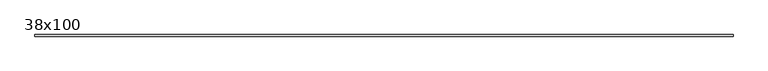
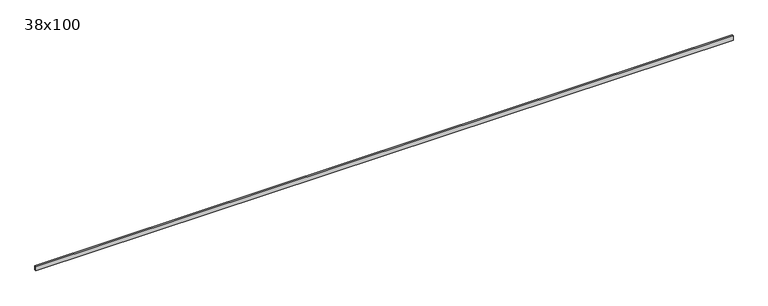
"""IFC4 building model written with IfcOpenShell, lengths in millimetres: beam geometry, Poutre - Bois de construction de dimensions courantes : 38x100."""

from ifc_helpers import new_model, si_unit, frame, origin, place, context, project, spatial, polyline, outline, extrude, source, transform, mapped, element, save


def beam_38x100_f057ed49(model_context):
    return source(origin(), model_context, "Body", "SweptSolid", [
        extrude(outline(polyline([(7969.5, 19.05), (7969.5, -19.05), (-7969.5, -19.05), (-7969.5, 19.05), (7969.5, 19.05)])), frame((0.0, 0.0, -50.0), z_axis=(0.0, 0.0, 1.0), x_axis=(1.0, 0.0, 0.0)), (0.0, 0.0, 1.0), 100.0),
    ])


if __name__ == "__main__":
    model = new_model("IFC4")
    model_context = context("Model", 3, world=origin())
    ifc_project = project(units=[si_unit("LENGTHUNIT", "METRE", prefix="MILLI")], contexts=[model_context])
    site = spatial("IfcSite", under=ifc_project)
    building = spatial("IfcBuilding", under=site)
    placement = place(None, origin())
    beam_38x100_shape = beam_38x100_f057ed49(model_context)
    element("IfcBeam", 1, ObjectType="Poutre - Bois de construction de dimensions courantes : 38x100", at=placement, inside=building, context=model_context, shape_type="MappedRepresentation", body=[
        mapped(beam_38x100_shape, transform((0.0, 0.0, 0.0), x_axis=(1.0, 0.0, 0.0), y_axis=(0.0, 1.0, 0.0), z_axis=(0.0, 0.0, 1.0))),
    ])
    save(model, "model.ifc")
